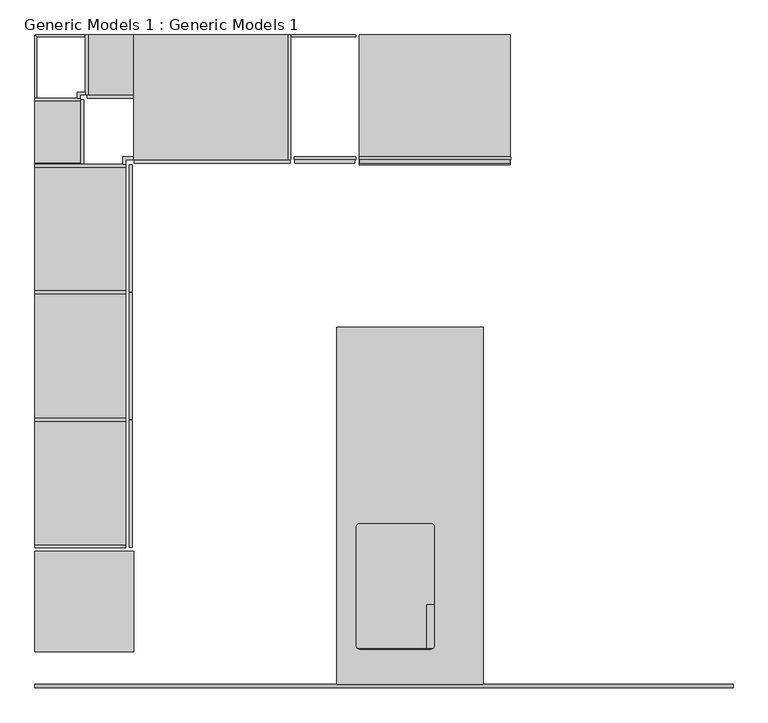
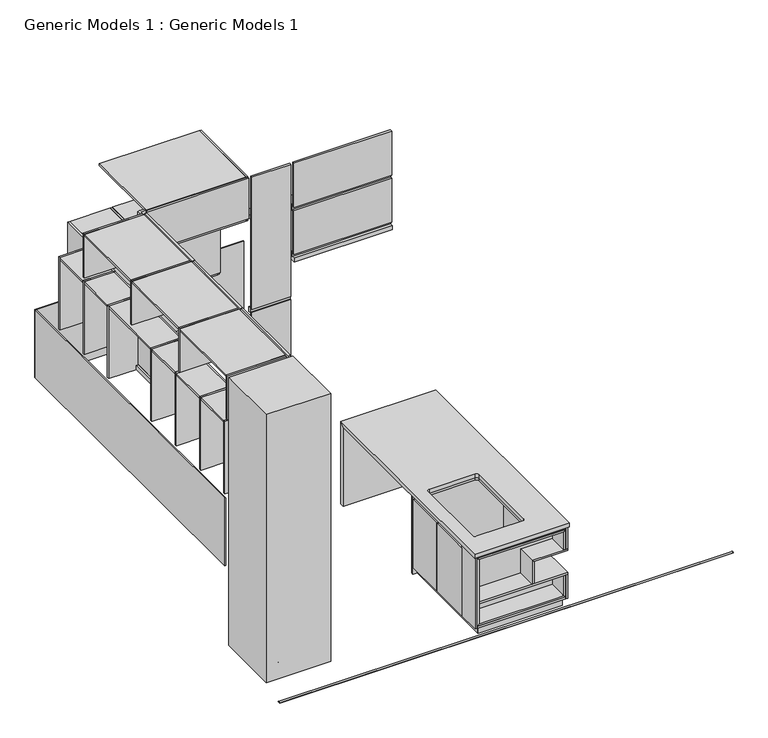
"""IFC4 building model written with IfcOpenShell, lengths in millimetres: proxy geometry, Generic Models 1 : Generic Models 1."""

from ifc_helpers import new_model, si_unit, point, frame, frame_2d, origin, origin_with_axes, place, context, project, spatial, polyline, circle_curve, trimmed, segment, composite_curve, outline, extrude, faceted_brep, source, transform, mapped, element, save
from ifc_brep_helpers import plane_surface, revolved_surface, advanced_brep


def generic_models_1_generic_models_1_b91d2ab0(model_context):
    return source(origin(), model_context, "Body", "SolidModel", [
        extrude(outline(composite_curve([segment(polyline([(2710.1043853, 0.0), (2690.1043853, 0.0), (2690.1043853, 2.5)]), True, "CONTINUOUS"), segment(trimmed(circle_curve(frame_2d((2700.1043853, -0.4166667)), 10.4166667), [point((2690.1043853, 2.5))], [point((2710.1043853, 2.5))], False, "CARTESIAN"), True, "CONTINUOUS"), segment(polyline([(2710.1043853, 2.5), (2710.1043853, 0.0)]), True, "CONTINUOUS")], self_intersect=False)), frame((-6367.2426281, 0.0, 0.0), z_axis=(1.0, 0.0, 0.0), x_axis=(0.0, 1.0, 0.0)), (0.0, 0.0, 1.0), 4300.0),
        extrude(outline(polyline([(-4497.2426281, 3760.1043853), (-3617.2426281, 3760.1043853), (-3617.2426281, 3740.1043853), (-4497.2426281, 3740.1043853), (-4497.2426281, 3760.1043853)])), origin_with_axes(), (0.0, 0.0, 1.0), 790.0),
        extrude(outline(polyline([(-3637.2426281, 2720.1043853), (-4477.2426281, 2720.1043853), (-4477.2426281, 3740.1043853), (-3637.2426281, 3740.1043853), (-3637.2426281, 2720.1043853)])), frame((0.0, 0.0, 70.0), z_axis=(0.0, 0.0, 1.0), x_axis=(1.0, 0.0, 0.0)), (0.0, 0.0, 1.0), 20.0),
        extrude(outline(polyline([(-3637.2426281, 2720.1043853), (-4477.2426281, 2720.1043853), (-4477.2426281, 3740.1043853), (-3637.2426281, 3740.1043853), (-3637.2426281, 2720.1043853)]), holes=[composite_curve([segment(trimmed(circle_curve(frame_2d((-3927.0145714, 3680.1043853)), 20.0), [point((-3907.0145714, 3680.1043853))], [point((-3927.0145714, 3700.1043853))], True, "CARTESIAN"), True, "CONTINUOUS"), segment(polyline([(-3927.0145714, 3700.1043853), (-4367.0145714, 3700.1043853)]), True, "CONTINUOUS"), segment(trimmed(circle_curve(frame_2d((-4367.0145714, 3680.1043853)), 20.0), [point((-4367.0145714, 3700.1043853))], [point((-4387.0145714, 3680.1043853))], True, "CARTESIAN"), True, "CONTINUOUS"), segment(polyline([(-4387.0145714, 3680.1043853), (-4387.0145714, 2948.1079732)]), True, "CONTINUOUS"), segment(trimmed(circle_curve(frame_2d((-4367.0145714, 2948.1079732)), 20.0), [point((-4387.0145714, 2948.1079732))], [point((-4367.0145714, 2928.1079732))], True, "CARTESIAN"), True, "CONTINUOUS"), segment(polyline([(-4367.0145714, 2928.1079732), (-3927.0145714, 2928.1079732)]), True, "CONTINUOUS"), segment(trimmed(circle_curve(frame_2d((-3927.0145714, 2948.1079732)), 20.0), [point((-3927.0145714, 2928.1079732))], [point((-3907.0145714, 2948.1079732))], True, "CARTESIAN"), True, "CONTINUOUS"), segment(polyline([(-3907.0145714, 2948.1079732), (-3907.0145714, 3680.1043853)]), True, "CONTINUOUS")], self_intersect=False)]), frame((0.0, 0.0, 770.0), z_axis=(0.0, 0.0, 1.0), x_axis=(1.0, 0.0, 0.0)), (0.0, 0.0, 1.0), 20.0),
        advanced_brep(
        [(-3637.2426281, 2910.1043853, 568.0), (-3637.2426281, 2910.1043853, 790.0), (-4456.2426281, 2910.1043853, 790.0), (-4456.2426281, 2910.1043853, 70.0), (-3637.2426281, 2910.1043853, 70.0), (-3637.2426281, 2910.1043853, 310.0), (-3955.2426281, 2910.1043853, 310.0), (-3955.2426281, 2910.1043853, 568.0), (-3637.2426281, 2930.1043853, 568.0), (-3955.2426281, 2930.1043853, 568.0), (-3955.2426281, 2930.1043853, 310.0), (-3637.2426281, 2930.1043853, 310.0), (-3637.2426281, 2930.1043853, 70.0), (-4456.2426281, 2930.1043853, 70.0), (-4456.2426281, 2930.1043853, 790.0), (-4375.7249574, 2930.1043853, 790.0), (-4375.7249574, 2930.1043853, 602.0), (-3918.3041854, 2930.1043853, 602.0), (-3918.3041854, 2930.1043853, 790.0), (-3637.2426281, 2930.1043853, 790.0), (-3927.0145714, 2928.1079732, 790.0), (-4367.0145714, 2928.1079732, 790.0), (-4367.0145714, 2928.1079732, 602.0), (-3927.0145714, 2928.1079732, 602.0)],
        [
            (0, 1),
            (1, 2),
            (2, 3),
            (3, 4),
            (4, 5),
            (5, 6),
            (6, 7),
            (7, 0),
            (8, 9),
            (9, 10),
            (10, 11),
            (11, 12),
            (12, 13),
            (13, 14),
            (14, 15),
            (15, 16),
            (16, 17),
            (17, 18),
            (18, 19),
            (19, 8),
            (0, 8),
            (19, 1),
            (18, 20, circle_curve(frame((-3927.0145714, 2948.1079732, 790.0), z_axis=(0.0, 0.0, -1.0), x_axis=(1.0, 0.0, 0.0)), 20.0)),
            (20, 21),
            (21, 15, circle_curve(frame((-4367.0145714, 2948.1079732, 790.0), z_axis=(0.0, 0.0, -1.0), x_axis=(0.0, -1.0, 0.0)), 20.0)),
            (14, 2),
            (13, 3),
            (12, 4),
            (11, 5),
            (10, 6),
            (9, 7),
            (22, 23),
            (23, 17, circle_curve(frame((-3927.0145714, 2948.1079732, 602.0), z_axis=(0.0, 0.0, 1.0), x_axis=(1.0, 0.0, 0.0)), 20.0)),
            (16, 22, circle_curve(frame((-4367.0145714, 2948.1079732, 602.0), z_axis=(0.0, 0.0, 1.0), x_axis=(0.0, -1.0, 0.0)), 20.0)),
            (23, 20),
            (22, 21),
        ],
        [
            plane_surface(frame((-3637.2426281, 2910.1043853, 790.0), z_axis=(0.0, -1.0, 0.0), x_axis=(0.0, 0.0, 1.0))),
            plane_surface(frame((-3637.2426281, 2930.1043853, 790.0), z_axis=(0.0, 1.0, 0.0), x_axis=(0.0, 0.0, -1.0))),
            plane_surface(frame((-3637.2426281, 2910.1043853, 568.0), z_axis=(1.0, 0.0, 0.0), x_axis=(0.0, 1.0, 0.0))),
            plane_surface(frame((-3637.2426281, 2910.1043853, 790.0), z_axis=(0.0, 0.0, 1.0), x_axis=(0.0, 1.0, 0.0))),
            plane_surface(frame((-4456.2426281, 2910.1043853, 790.0), z_axis=(-1.0, 0.0, 0.0), x_axis=(0.0, 1.0, 0.0))),
            plane_surface(frame((-4456.2426281, 2910.1043853, 70.0), z_axis=(0.0, 0.0, -1.0), x_axis=(0.0, 1.0, 0.0))),
            plane_surface(frame((-3637.2426281, 2910.1043853, 70.0), z_axis=(1.0, 0.0, 0.0), x_axis=(0.0, 1.0, 0.0))),
            plane_surface(frame((-3637.2426281, 2910.1043853, 310.0), z_axis=(0.0, 0.0, 1.0), x_axis=(0.0, 1.0, 0.0))),
            plane_surface(frame((-3955.2426281, 2910.1043853, 310.0), z_axis=(1.0, 0.0, 0.0), x_axis=(0.0, 1.0, 0.0))),
            plane_surface(frame((-3955.2426281, 2910.1043853, 568.0), z_axis=(0.0, 0.0, -1.0), x_axis=(0.0, 1.0, 0.0))),
            plane_surface(frame((-3927.0145714, 3700.1043853, 602.0), z_axis=(0.0, 0.0, 1.0), x_axis=(1.0, 0.0, 0.0))),
            revolved_surface(polyline([(-3907.0145714, 2948.1079732, 602.0), (-3907.0145714, 2948.1079732, 790.0)]), (-3927.0145714, 2948.1079732, 942.6604582), (0.0, 0.0, -1.0)),
            plane_surface(frame((-3927.0145714, 2928.1079732, 602.0), z_axis=(0.0, 1.0, 0.0), x_axis=(0.0, 0.0, 1.0))),
            revolved_surface(polyline([(-4367.0145714, 2928.1079732, 602.0), (-4367.0145714, 2928.1079732, 790.0)]), (-4367.0145714, 2948.1079732, 942.6604582), (0.0, 0.0, -1.0)),
        ],
        [
            (0, [[1, 2, 3, 4, 5, 6, 7, 8]]),
            (1, [[9, 10, 11, 12, 13, 14, 15, 16, 17, 18, 19, 20]]),
            (2, [[-1, 21, -20, 22]]),
            (3, [[-2, -22, -19, 23, 24, 25, -15, 26]]),
            (4, [[-3, -26, -14, 27]]),
            (5, [[-4, -27, -13, 28]]),
            (6, [[-5, -28, -12, 29]]),
            (7, [[-6, -29, -11, 30]]),
            (8, [[-7, -30, -10, 31]]),
            (9, [[-8, -31, -9, -21]]),
            (10, [[32, 33, -17, 34]]),
            (11, [[-33, 35, -23, -18]]),
            (12, [[-32, 36, -24, -35]]),
            (13, [[-34, -16, -25, -36]]),
        ],
    ),
        extrude(outline(polyline([(-4457.2426281, 3740.1043853), (-4457.2426281, 2935.1043853), (-4477.2426281, 2935.1043853), (-4477.2426281, 3740.1043853), (-4457.2426281, 3740.1043853)])), frame((0.0, 0.0, 752.0), z_axis=(0.0, 0.0, 1.0), x_axis=(1.0, 0.0, 0.0)), (0.0, 0.0, 1.0), 18.0),
        extrude(outline(polyline([(-4497.2426281, 2940.1043853), (-4497.2426281, 3342.6043853), (-4477.2426281, 3342.6043853), (-4477.2426281, 2940.1043853), (-4497.2426281, 2940.1043853)])), frame((0.0, 0.0, 70.0), z_axis=(0.0, 0.0, 1.0), x_axis=(1.0, 0.0, 0.0)), (0.0, 0.0, 1.0), 682.0),
        extrude(outline(polyline([(-4497.2426281, 3347.6043853), (-4497.2426281, 3735.1043853), (-4477.2426281, 3735.1043853), (-4477.2426281, 3347.6043853), (-4497.2426281, 3347.6043853)])), frame((0.0, 0.0, 70.0), z_axis=(0.0, 0.0, 1.0), x_axis=(1.0, 0.0, 0.0)), (0.0, 0.0, 1.0), 682.0),
        faceted_brep([(-4476.2426281, 2720.1043853, 90.7071068), (-4458.2426281, 2720.1043853, 108.7071068), (-4458.2426281, 2720.1043853, 751.2928932), (-4476.2426281, 2720.1043853, 769.2928932), (-4476.2426281, 2910.1043853, 90.7071068), (-4476.2426281, 2910.1043853, 769.2928932), (-4458.2426281, 2910.1043853, 751.2928932), (-4458.2426281, 2910.1043853, 108.7071068)], [[[0, 1, 2, 3]], [[4, 5, 6, 7]], [[1, 0, 4, 7]], [[2, 1, 7, 6]], [[3, 2, 6, 5]], [[0, 3, 5, 4]]]),
        faceted_brep([(-3637.9497349, 2720.1043853, 770.0), (-4475.5355214, 2720.1043853, 770.0), (-4457.5355214, 2720.1043853, 752.0), (-3655.9497349, 2720.1043853, 752.0), (-3637.9497349, 2910.1043853, 770.0), (-3655.9497349, 2910.1043853, 752.0), (-4457.5355214, 2910.1043853, 752.0), (-4475.5355214, 2910.1043853, 770.0)], [[[0, 1, 2, 3]], [[4, 5, 6, 7]], [[1, 0, 4, 7]], [[2, 1, 7, 6]], [[3, 2, 6, 5]], [[0, 3, 5, 4]]]),
        faceted_brep([(-3637.9497349, 2720.1043853, 90.0), (-3655.9497349, 2720.1043853, 108.0), (-4457.5355214, 2720.1043853, 108.0), (-4475.5355214, 2720.1043853, 90.0), (-3637.9497349, 2910.1043853, 90.0), (-4475.5355214, 2910.1043853, 90.0), (-4457.5355214, 2910.1043853, 108.0), (-3655.9497349, 2910.1043853, 108.0)], [[[0, 1, 2, 3]], [[4, 5, 6, 7]], [[1, 0, 4, 7]], [[2, 1, 7, 6]], [[3, 2, 6, 5]], [[0, 3, 5, 4]]]),
        faceted_brep([(-3637.2426281, 2720.1043853, 569.0), (-3637.2426281, 2720.1043853, 769.2928932), (-3655.2426281, 2720.1043853, 751.2928932), (-3655.2426281, 2720.1043853, 569.0), (-3637.2426281, 2910.1043853, 569.0), (-3655.2426281, 2910.1043853, 569.0), (-3655.2426281, 2910.1043853, 751.2928932), (-3637.2426281, 2910.1043853, 769.2928932)], [[[0, 1, 2, 3]], [[4, 5, 6, 7]], [[1, 0, 4, 7]], [[2, 1, 7, 6]], [[3, 2, 6, 5]], [[0, 3, 5, 4]]]),
        faceted_brep([(-3655.2426281, 2720.1043853, 309.0), (-3655.2426281, 2720.1043853, 108.7071068), (-3637.2426281, 2720.1043853, 90.7071068), (-3637.2426281, 2720.1043853, 309.0), (-3655.2426281, 2910.1043853, 309.0), (-3637.2426281, 2910.1043853, 309.0), (-3637.2426281, 2910.1043853, 90.7071068), (-3655.2426281, 2910.1043853, 108.7071068)], [[[0, 1, 2, 3]], [[4, 5, 6, 7]], [[1, 0, 4, 7]], [[2, 1, 7, 6]], [[3, 2, 6, 5]], [[0, 3, 5, 4]]]),
        faceted_brep([(-3617.2426281, 2720.1043853, 550.0), (-3617.2426281, 2720.1043853, 568.0), (-3954.5355214, 2720.1043853, 568.0), (-3936.5355214, 2720.1043853, 550.0), (-3955.2426281, 2720.1043853, 329.0), (-3937.2426281, 2720.1043853, 329.0), (-3937.2426281, 2720.1043853, 549.2928932), (-3955.2426281, 2720.1043853, 567.2928932), (-3617.2426281, 3181.3972785, 550.0), (-3617.2426281, 3199.3972785, 568.0), (-3617.2426281, 3200.1043853, 310.7071068), (-3617.2426281, 3200.1043853, 567.2928932), (-3617.2426281, 3182.1043853, 549.2928932), (-3617.2426281, 3182.1043853, 328.7071068), (-3955.2426281, 3199.3972785, 568.0), (-3955.2426281, 2910.1043853, 568.0), (-3954.5355214, 2910.1043853, 568.0), (-3936.5355214, 2910.1043853, 550.0), (-3937.2426281, 2910.1043853, 550.0), (-3937.2426281, 3181.3972785, 550.0), (-3937.2426281, 3182.1043853, 329.0), (-3937.2426281, 3182.1043853, 549.2928932), (-3937.2426281, 3182.1043853, 550.0), (-3937.2426281, 2910.1043853, 549.2928932), (-3955.2426281, 2910.1043853, 567.2928932), (-3955.2426281, 3181.3972785, 550.0), (-3955.2426281, 3182.1043853, 550.0), (-3955.2426281, 3182.1043853, 549.2928932), (-3955.2426281, 3200.1043853, 567.2928932), (-3955.2426281, 3200.1043853, 310.7071068), (-3955.2426281, 3182.1043853, 328.7071068), (-3955.2426281, 3182.1043853, 329.0)], [[[0, 1, 2, 3]], [[4, 5, 6, 7]], [[1, 0, 8, 9]], [[10, 11, 12, 13]], [[2, 1, 9, 14, 15, 16]], [[3, 2, 16, 17]], [[8, 0, 3, 17, 18, 19]], [[6, 5, 20, 21, 22, 19, 18, 23]], [[7, 6, 23, 24]], [[4, 7, 24, 15, 14, 25, 26, 27, 28, 29, 30, 31]], [[5, 4, 31, 20]], [[26, 22, 21, 27]], [[22, 26, 25, 19]], [[23, 18, 17, 16, 15, 24]], [[11, 10, 29, 28]], [[12, 11, 28, 27, 21]], [[13, 12, 21, 20, 31, 30]], [[10, 13, 30, 29]], [[9, 8, 19, 25, 14]]]),
        faceted_brep([(-3617.2426281, 2720.1043853, 328.0), (-4457.2426281, 2720.1043853, 328.0), (-4457.2426281, 2720.1043853, 310.0), (-3617.2426281, 2720.1043853, 310.0), (-4457.2426281, 2910.1043853, 310.0), (-4457.2426281, 2910.1043853, 328.0), (-3955.2426281, 2910.1043853, 328.0), (-3955.2426281, 2910.1043853, 310.0), (-3617.2426281, 3199.3972785, 310.0), (-3617.2426281, 3181.3972785, 328.0), (-3955.2426281, 3181.3972785, 328.0), (-3955.2426281, 3199.3972785, 310.0)], [[[0, 1, 2, 3]], [[4, 5, 6, 7]], [[8, 9, 0, 3]], [[1, 0, 9, 10, 6, 5]], [[8, 3, 2, 4, 7, 11]], [[6, 10, 11, 7]], [[2, 1, 5, 4]], [[9, 8, 11, 10]]]),
        advanced_brep(
        [(-5757.2426281, 2911.1043853, 2759.0), (-5757.2426281, 2911.1043853, 70.0), (-5757.2426281, 3529.1043853, 70.0), (-5757.2426281, 3529.1043853, 2759.0), (-5757.2426281, 2920.1043853, 1954.9957582), (-5757.2426281, 3514.1045684, 1954.9957582), (-5757.2426281, 3514.1045684, 1499.9957315), (-5757.2426281, 2920.1043853, 1499.9957315), (-5757.2426281, 2920.1043853, 1251.0), (-5757.2426281, 3520.1043853, 1251.0), (-5757.2426281, 3520.1043853, 233.0), (-5757.2426281, 3515.1043853, 228.0), (-5757.2426281, 2925.1043853, 228.0), (-5757.2426281, 2920.1043853, 233.0), (-6367.2426281, 2911.1043853, 2759.0), (-6367.2426281, 3529.1043853, 2759.0), (-6367.2426281, 3529.1043853, 70.0), (-6367.2426281, 2911.1043853, 70.0), (-6257.2426281, 2920.1043853, 1954.9957582), (-6257.2426281, 2920.1043853, 1499.9957315), (-6257.2426281, 3514.1045684, 1499.9957315), (-6257.2426281, 3514.1045684, 1954.9957582), (-6257.2426281, 2920.1043853, 1251.0), (-6257.2426281, 2920.1043853, 233.0), (-6257.2426281, 2925.1043853, 228.0), (-6257.2426281, 3515.1043853, 228.0), (-6257.2426281, 3520.1043853, 233.0), (-6257.2426281, 3520.1043853, 1251.0)],
        [
            (0, 1),
            (1, 2),
            (2, 3),
            (3, 0),
            (4, 5),
            (5, 6),
            (6, 7),
            (7, 4),
            (8, 9),
            (9, 10),
            (10, 11, circle_curve(frame((-5757.2426281, 3515.1043853, 233.0), z_axis=(-1.0, 0.0, 0.0), x_axis=(0.0, 1.0, 0.0)), 5.0)),
            (11, 12),
            (12, 13, circle_curve(frame((-5757.2426281, 2925.1043853, 233.0), z_axis=(-1.0, 0.0, 0.0), x_axis=(0.0, 1.0, 0.0)), 5.0)),
            (13, 8),
            (14, 15),
            (15, 16),
            (16, 17),
            (17, 14),
            (0, 14),
            (17, 1),
            (16, 2),
            (15, 3),
            (18, 19),
            (19, 20),
            (20, 21),
            (21, 18),
            (22, 23),
            (23, 24, circle_curve(frame((-6257.2426281, 2925.1043853, 233.0), z_axis=(1.0, 0.0, 0.0), x_axis=(0.0, 1.0, 0.0)), 5.0)),
            (24, 25),
            (25, 26, circle_curve(frame((-6257.2426281, 3515.1043853, 233.0), z_axis=(1.0, 0.0, 0.0), x_axis=(0.0, 1.0, 0.0)), 5.0)),
            (26, 27),
            (27, 22),
            (21, 5),
            (4, 18),
            (20, 6),
            (19, 7),
            (27, 9),
            (8, 22),
            (26, 10),
            (25, 11),
            (24, 12),
            (23, 13),
        ],
        [
            plane_surface(frame((-5757.2426281, 2911.1043853, 2760.0), z_axis=(1.0, 0.0, 0.0), x_axis=(0.0, 0.0, -1.0))),
            plane_surface(frame((-6367.2426281, 2911.1043853, 2760.0), z_axis=(-1.0, 0.0, 0.0), x_axis=(0.0, 0.0, 1.0))),
            plane_surface(frame((-5757.2426281, 2911.1043853, 2759.0), z_axis=(0.0, -1.0, 0.0), x_axis=(-1.0, 0.0, 0.0))),
            plane_surface(frame((-5757.2426281, 2911.1043853, 70.0), z_axis=(0.0, 0.0, -1.0), x_axis=(-1.0, 0.0, 0.0))),
            plane_surface(frame((-5757.2426281, 3529.1043853, 70.0), z_axis=(0.0, 1.0, 0.0), x_axis=(-1.0, 0.0, 0.0))),
            plane_surface(frame((-5757.2426281, 3529.1043853, 2759.0), z_axis=(0.0, 0.0, 1.0), x_axis=(-1.0, 0.0, 0.0))),
            plane_surface(frame((-6257.2426281, 3514.1045684, 1954.9957582), z_axis=(1.0, 0.0, 0.0), x_axis=(0.0, 1.0, 0.0))),
            plane_surface(frame((-6257.2426281, 2920.1043853, 1954.9957582), z_axis=(0.0, 0.0, -1.0), x_axis=(1.0, 0.0, 0.0))),
            plane_surface(frame((-6257.2426281, 3514.1045684, 1954.9957582), z_axis=(0.0, -1.0, 0.0), x_axis=(1.0, 0.0, 0.0))),
            plane_surface(frame((-6257.2426281, 3514.1045684, 1499.9957315), z_axis=(0.0, 0.0, 1.0), x_axis=(1.0, 0.0, 0.0))),
            plane_surface(frame((-6257.2426281, 2920.1043853, 1499.9957315), z_axis=(0.0, 1.0, 0.0), x_axis=(1.0, 0.0, 0.0))),
            plane_surface(frame((-6257.2426281, 2920.1043853, 1251.0), z_axis=(0.0, 0.0, -1.0), x_axis=(1.0, 0.0, 0.0))),
            plane_surface(frame((-6257.2426281, 3520.1043853, 1251.0), z_axis=(0.0, -1.0, 0.0), x_axis=(1.0, 0.0, 0.0))),
            revolved_surface(polyline([(-6257.2426281, 3520.1043853, 233.0), (-5757.2426281, 3520.1043853, 233.0)]), (-5757.2426281, 3515.1043853, 233.0), (-1.0, 0.0, 0.0)),
            plane_surface(frame((-6257.2426281, 3515.1043853, 228.0), z_axis=(0.0, 0.0, 1.0), x_axis=(1.0, 0.0, 0.0))),
            revolved_surface(polyline([(-6257.2426281, 2930.1043853, 233.0), (-5757.2426281, 2930.1043853, 233.0)]), (-5757.2426281, 2925.1043853, 233.0), (-1.0, 0.0, 0.0)),
            plane_surface(frame((-6257.2426281, 2920.1043853, 233.0), z_axis=(0.0, 1.0, 0.0), x_axis=(1.0, 0.0, 0.0))),
        ],
        [
            (0, [[1, 2, 3, 4], [5, 6, 7, 8], [9, 10, 11, 12, 13, 14]]),
            (1, [[15, 16, 17, 18]]),
            (2, [[-1, 19, -18, 20]]),
            (3, [[-2, -20, -17, 21]]),
            (4, [[-3, -21, -16, 22]]),
            (5, [[-4, -22, -15, -19]]),
            (6, [[23, 24, 25, 26]]),
            (6, [[27, 28, 29, 30, 31, 32]]),
            (7, [[-26, 33, -5, 34]]),
            (8, [[-25, 35, -6, -33]]),
            (9, [[-24, 36, -7, -35]]),
            (10, [[-23, -34, -8, -36]]),
            (11, [[-32, 37, -9, 38]]),
            (12, [[-31, 39, -10, -37]]),
            (13, [[-30, 40, -11, -39]]),
            (14, [[-29, 41, -12, -40]]),
            (15, [[-28, 42, -13, -41]]),
            (16, [[-27, -38, -14, -42]]),
        ],
    ),
        extrude(outline(polyline([(2720.1043853, 790.0), (3740.1043853, 790.0), (3740.1043853, 70.0), (2720.1043853, 70.0), (2720.1043853, 310.0), (3200.1043853, 310.0), (3200.1043853, 568.0), (2720.1043853, 568.0), (2720.1043853, 790.0)])), frame((-3637.2426281, 0.0, 0.0), z_axis=(1.0, 0.0, 0.0), x_axis=(0.0, 1.0, 0.0)), (0.0, 0.0, 1.0), 20.0),
        advanced_brep(
        [(-3607.2426281, 2710.1043853, 830.0), (-3607.2426281, 2710.1043853, 790.0), (-3607.2426281, 4869.3972785, 790.0), (-3607.2426281, 4909.3972785, 830.0), (-4507.2426281, 2710.1043853, 830.0), (-4507.2426281, 4909.3972785, 830.0), (-4507.2426281, 4869.3972785, 790.0), (-4507.2426281, 2710.1043853, 790.0), (-3907.0145714, 3680.1043853, 790.0), (-3927.0145714, 3700.1043853, 790.0), (-4367.0145714, 3700.1043853, 790.0), (-4387.0145714, 3680.1043853, 790.0), (-4387.0145714, 2948.1079732, 790.0), (-4367.0145714, 2928.1079732, 790.0), (-3927.0145714, 2928.1079732, 790.0), (-3907.0145714, 2948.1079732, 790.0), (-3927.0145714, 3700.1043853, 830.0), (-3907.0145714, 3680.1043853, 830.0), (-3907.0145714, 2948.1079732, 830.0), (-3927.0145714, 2928.1079732, 830.0), (-4367.0145714, 2928.1079732, 830.0), (-4387.0145714, 2948.1079732, 830.0), (-4387.0145714, 3680.1043853, 830.0), (-4367.0145714, 3700.1043853, 830.0)],
        [
            (0, 1),
            (1, 2),
            (2, 3),
            (3, 0),
            (4, 5),
            (5, 6),
            (6, 7),
            (7, 4),
            (0, 4),
            (7, 1),
            (6, 2),
            (8, 9, circle_curve(frame((-3927.0145714, 3680.1043853, 790.0), z_axis=(0.0, 0.0, 1.0), x_axis=(0.0, 1.0, 0.0)), 20.0)),
            (9, 10),
            (10, 11, circle_curve(frame((-4367.0145714, 3680.1043853, 790.0), z_axis=(0.0, 0.0, 1.0), x_axis=(-1.0, 0.0, 0.0)), 20.0)),
            (11, 12),
            (12, 13, circle_curve(frame((-4367.0145714, 2948.1079732, 790.0), z_axis=(0.0, 0.0, 1.0), x_axis=(0.0, -1.0, 0.0)), 20.0)),
            (13, 14),
            (14, 15, circle_curve(frame((-3927.0145714, 2948.1079732, 790.0), z_axis=(0.0, 0.0, 1.0), x_axis=(1.0, 0.0, 0.0)), 20.0)),
            (15, 8),
            (5, 3),
            (16, 17, circle_curve(frame((-3927.0145714, 3680.1043853, 830.0), z_axis=(0.0, 0.0, -1.0), x_axis=(0.0, 1.0, 0.0)), 20.0)),
            (17, 18),
            (18, 19, circle_curve(frame((-3927.0145714, 2948.1079732, 830.0), z_axis=(0.0, 0.0, -1.0), x_axis=(1.0, 0.0, 0.0)), 20.0)),
            (19, 20),
            (20, 21, circle_curve(frame((-4367.0145714, 2948.1079732, 830.0), z_axis=(0.0, 0.0, -1.0), x_axis=(0.0, -1.0, 0.0)), 20.0)),
            (21, 22),
            (22, 23, circle_curve(frame((-4367.0145714, 3680.1043853, 830.0), z_axis=(0.0, 0.0, -1.0), x_axis=(-1.0, 0.0, 0.0)), 20.0)),
            (23, 16),
            (16, 9),
            (8, 17),
            (15, 18),
            (14, 19),
            (13, 20),
            (12, 21),
            (11, 22),
            (10, 23),
        ],
        [
            plane_surface(frame((-3607.2426281, 2710.1043853, 830.0), z_axis=(1.0, 0.0, 0.0), x_axis=(0.0, 0.0, -1.0))),
            plane_surface(frame((-4507.2426281, 2710.1043853, 830.0), z_axis=(-1.0, 0.0, 0.0), x_axis=(0.0, 0.0, 1.0))),
            plane_surface(frame((-3607.2426281, 2710.1043853, 830.0), z_axis=(0.0, -1.0, 0.0), x_axis=(-1.0, 0.0, 0.0))),
            plane_surface(frame((-3607.2426281, 2710.1043853, 790.0), z_axis=(0.0, 0.0, -1.0), x_axis=(-1.0, 0.0, 0.0))),
            plane_surface(frame((-3607.2426281, 4869.3972785, 790.0), z_axis=(0.0, 0.7071067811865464, -0.7071067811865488), x_axis=(-1.0, 0.0, 0.0))),
            plane_surface(frame((-3607.2426281, 4909.3972785, 830.0), z_axis=(0.0, 0.0, 1.0), x_axis=(-1.0, 0.0, 0.0))),
            revolved_surface(polyline([(-3927.0145714, 3700.1043853, 790.0), (-3927.0145714, 3700.1043853, 830.0)]), (-3927.0145714, 3680.1043853, 942.6604582), (0.0, 0.0, -1.0)),
            plane_surface(frame((-3907.0145714, 3680.1043853, 602.0), z_axis=(-1.0, 0.0, 0.0), x_axis=(0.0, 0.0, 1.0))),
            revolved_surface(polyline([(-3907.0145714, 2948.1079732, 790.0), (-3907.0145714, 2948.1079732, 830.0)]), (-3927.0145714, 2948.1079732, 942.6604582), (0.0, 0.0, -1.0)),
            plane_surface(frame((-3927.0145714, 2928.1079732, 602.0), z_axis=(0.0, 1.0, 0.0), x_axis=(0.0, 0.0, 1.0))),
            revolved_surface(polyline([(-4367.0145714, 2928.1079732, 790.0), (-4367.0145714, 2928.1079732, 830.0)]), (-4367.0145714, 2948.1079732, 942.6604582), (0.0, 0.0, -1.0)),
            plane_surface(frame((-4387.0145714, 2948.1079732, 602.0), z_axis=(1.0, 0.0, 0.0), x_axis=(0.0, 0.0, 1.0))),
            revolved_surface(polyline([(-4387.0145714, 3680.1043853, 790.0), (-4387.0145714, 3680.1043853, 830.0)]), (-4367.0145714, 3680.1043853, 942.6604582), (0.0, 0.0, -1.0)),
            plane_surface(frame((-4367.0145714, 3700.1043853, 602.0), z_axis=(0.0, -1.0, 0.0), x_axis=(0.0, 0.0, 1.0))),
        ],
        [
            (0, [[1, 2, 3, 4]]),
            (1, [[5, 6, 7, 8]]),
            (2, [[-1, 9, -8, 10]]),
            (3, [[-2, -10, -7, 11], [12, 13, 14, 15, 16, 17, 18, 19]]),
            (4, [[-3, -11, -6, 20]]),
            (5, [[-4, -20, -5, -9], [21, 22, 23, 24, 25, 26, 27, 28]]),
            (6, [[29, -12, 30, -21]]),
            (7, [[-30, -19, 31, -22]]),
            (8, [[-31, -18, 32, -23]]),
            (9, [[-32, -17, 33, -24]]),
            (10, [[-33, -16, 34, -25]]),
            (11, [[-34, -15, 35, -26]]),
            (12, [[-35, -14, 36, -27]]),
            (13, [[-29, -28, -36, -13]]),
        ],
    ),
        faceted_brep([(-3607.2426281, 4870.1043853, 789.2928932), (-3607.2426281, 4870.1043853, 0.0), (-3607.2426281, 4910.1043853, 0.0), (-3607.2426281, 4910.1043853, 829.2928932), (-4507.2426281, 4870.1043853, 789.2928932), (-4507.2426281, 4910.1043853, 829.2928932), (-4507.2426281, 4910.1043853, 0.0), (-4507.2426281, 4870.1043853, 0.0)], [[[0, 1, 2, 3]], [[4, 5, 6, 7]], [[1, 0, 4, 7]], [[2, 1, 7, 6]], [[3, 2, 6, 5]], [[0, 3, 5, 4]]]),
        extrude(outline(polyline([(-4477.2426281, 2935.1043853), (-4477.2426281, 2720.1043853), (-4497.2426281, 2720.1043853), (-4497.2426281, 2935.1043853), (-4477.2426281, 2935.1043853)])), frame((0.0, 0.0, 70.0), z_axis=(0.0, 0.0, 1.0), x_axis=(1.0, 0.0, 0.0)), (0.0, 0.0, 1.0), 720.0),
        extrude(outline(polyline([(-4456.5355214, 2740.1043853), (-4436.5355214, 2760.1043853), (-3677.9497349, 2760.1043853), (-3657.9497349, 2740.1043853), (-4456.5355214, 2740.1043853)])), origin_with_axes(), (0.0, 0.0, 1.0), 70.0),
        extrude(outline(polyline([(-4457.2426281, 3740.1043853), (-4437.2426281, 3740.1043853), (-4437.2426281, 2760.8114921), (-4457.2426281, 2740.8114921), (-4457.2426281, 3740.1043853)])), origin_with_axes(), (0.0, 0.0, 1.0), 70.0),
        extrude(outline(polyline([(-3657.2426281, 3740.1043853), (-3657.2426281, 2740.8114921), (-3677.2426281, 2760.8114921), (-3677.2426281, 3740.1043853), (-3657.2426281, 3740.1043853)])), origin_with_axes(), (0.0, 0.0, 1.0), 70.0),
        extrude(outline(polyline([(-6357.2426281, 3590.1043853), (-6367.2426281, 3590.1043853), (-6367.2426281, 6709.3972785), (-6357.2426281, 6699.3972785), (-6357.2426281, 3590.1043853)])), frame((0.0, 0.0, 830.0), z_axis=(0.0, 0.0, 1.0), x_axis=(1.0, 0.0, 0.0)), (0.0, 0.0, 1.0), 680.0),
        extrude(outline(polyline([(-6366.5355214, 6710.1043853), (-4391.6426281, 6710.1043853), (-4391.6426281, 6700.1043853), (-6356.5355214, 6700.1043853), (-6366.5355214, 6710.1043853)])), frame((0.0, 0.0, 830.0), z_axis=(0.0, 0.0, 1.0), x_axis=(1.0, 0.0, 0.0)), (0.0, 0.0, 1.0), 680.0),
        extrude(outline(polyline([(-4851.6426281, 6340.1043853), (-5233.5092948, 6340.1043853), (-5233.5092948, 6710.1043853), (-4851.6426281, 6710.1043853), (-4851.6426281, 6340.1043853)])), frame((0.0, 0.0, 1550.0), z_axis=(0.0, 0.0, 1.0), x_axis=(1.0, 0.0, 0.0)), (0.0, 0.0, 1.0), 40.0),
        extrude(outline(polyline([(-5253.5092948, 6340.1043853), (-5635.3759615, 6340.1043853), (-5635.3759615, 6710.1043853), (-5253.5092948, 6710.1043853), (-5253.5092948, 6340.1043853)])), frame((0.0, 0.0, 1550.0), z_axis=(0.0, 0.0, 1.0), x_axis=(1.0, 0.0, 0.0)), (0.0, 0.0, 1.0), 40.0),
        extrude(outline(polyline([(-5655.3759615, 6340.1043853), (-6037.2426281, 6340.1043853), (-6037.2426281, 6710.1043853), (-5655.3759615, 6710.1043853), (-5655.3759615, 6340.1043853)])), frame((0.0, 0.0, 1550.0), z_axis=(0.0, 0.0, 1.0), x_axis=(1.0, 0.0, 0.0)), (0.0, 0.0, 1.0), 40.0),
        extrude(outline(polyline([(-4809.6426281, 5940.1043853), (-5756.2426281, 5940.1043853), (-5756.2426281, 5960.1043853), (-4809.6426281, 5960.1043853), (-4809.6426281, 5940.1043853)])), frame((0.0, 0.0, 2320.0), z_axis=(0.0, 0.0, 1.0), x_axis=(1.0, 0.0, 0.0)), (0.0, 0.0, 1.0), 40.0),
        extrude(outline(polyline([(-5807.2426281, 4331.1002235), (-5807.2426281, 3568.1043853), (-5827.2426281, 3568.1043853), (-5827.2426281, 4331.1002235), (-5807.2426281, 4331.1002235)])), frame((0.0, 0.0, 2320.0), z_axis=(0.0, 0.0, 1.0), x_axis=(1.0, 0.0, 0.0)), (0.0, 0.0, 1.0), 40.0),
        extrude(outline(polyline([(-5807.2426281, 5116.1085471), (-5807.2426281, 4349.1002235), (-5827.2426281, 4349.1002235), (-5827.2426281, 5116.1085471), (-5807.2426281, 5116.1085471)])), frame((0.0, 0.0, 2320.0), z_axis=(0.0, 0.0, 1.0), x_axis=(1.0, 0.0, 0.0)), (0.0, 0.0, 1.0), 40.0),
        extrude(outline(polyline([(-5807.2426281, 5896.093891), (-5807.2426281, 5134.1085471), (-5827.2426281, 5134.1085471), (-5827.2426281, 5896.093891), (-5807.2426281, 5896.093891)])), frame((0.0, 0.0, 2320.0), z_axis=(0.0, 0.0, 1.0), x_axis=(1.0, 0.0, 0.0)), (0.0, 0.0, 1.0), 40.0),
        extrude(outline(polyline([(-4810.6426281, 5940.1043853), (-5757.2426281, 5940.1043853), (-5757.2426281, 6710.1043853), (-4810.6426281, 6710.1043853), (-4810.6426281, 5940.1043853)])), frame((0.0, 0.0, 2742.0), z_axis=(0.0, 0.0, 1.0), x_axis=(1.0, 0.0, 0.0)), (0.0, 0.0, 1.0), 18.0),
        extrude(outline(polyline([(-4791.6426281, 5940.1043853), (-4809.6426281, 5940.1043853), (-4809.6426281, 6710.1043853), (-4791.6426281, 6710.1043853), (-4791.6426281, 5940.1043853)])), frame((0.0, 0.0, 2320.0), z_axis=(0.0, 0.0, 1.0), x_axis=(1.0, 0.0, 0.0)), (0.0, 0.0, 1.0), 440.0),
        extrude(outline(polyline([(-5827.2426281, 5914.093891), (-5827.2426281, 5960.1043853), (-5809.1951387, 5960.1043853), (-5757.2426281, 5960.1043853), (-5757.2426281, 5940.1043853), (-5807.2426281, 5940.1043853), (-5807.2426281, 5914.093891), (-5827.2426281, 5914.093891)])), frame((0.0, 0.0, 2320.0), z_axis=(0.0, 0.0, 1.0), x_axis=(1.0, 0.0, 0.0)), (0.0, 0.0, 1.0), 440.0),
        extrude(outline(polyline([(-5807.2426281, 3568.1043853), (-5807.2426281, 3550.1043853), (-6367.2426281, 3550.1043853), (-6367.2426281, 3568.1043853), (-5807.2426281, 3568.1043853)])), frame((0.0, 0.0, 2320.0), z_axis=(0.0, 0.0, 1.0), x_axis=(1.0, 0.0, 0.0)), (0.0, 0.0, 1.0), 440.0),
        extrude(outline(polyline([(-5807.2426281, 4349.1002235), (-5807.2426281, 4331.1002235), (-6367.2426281, 4331.1002235), (-6367.2426281, 4349.1002235), (-5807.2426281, 4349.1002235)])), frame((0.0, 0.0, 2320.0), z_axis=(0.0, 0.0, 1.0), x_axis=(1.0, 0.0, 0.0)), (0.0, 0.0, 1.0), 440.0),
        extrude(outline(polyline([(-5807.2426281, 5134.1085471), (-5807.2426281, 5116.1085471), (-6367.2426281, 5116.1085471), (-6367.2426281, 5134.1085471), (-5807.2426281, 5134.1085471)])), frame((0.0, 0.0, 2320.0), z_axis=(0.0, 0.0, 1.0), x_axis=(1.0, 0.0, 0.0)), (0.0, 0.0, 1.0), 440.0),
        extrude(outline(polyline([(-5807.2426281, 5914.093891), (-5807.2426281, 5896.093891), (-6367.2426281, 5896.093891), (-6367.2426281, 5914.093891), (-5807.2426281, 5914.093891)])), frame((0.0, 0.0, 2320.0), z_axis=(0.0, 0.0, 1.0), x_axis=(1.0, 0.0, 0.0)), (0.0, 0.0, 1.0), 440.0),
        extrude(outline(polyline([(-5807.2426281, 4330.1002235), (-5807.2426281, 3569.1043853), (-6367.2426281, 3569.1043853), (-6367.2426281, 4330.1002235), (-5807.2426281, 4330.1002235)])), frame((0.0, 0.0, 2742.0), z_axis=(0.0, 0.0, 1.0), x_axis=(1.0, 0.0, 0.0)), (0.0, 0.0, 1.0), 18.0),
        extrude(outline(polyline([(-5807.2426281, 5115.1085471), (-5807.2426281, 4350.1002235), (-6367.2426281, 4350.1002235), (-6367.2426281, 5115.1085471), (-5807.2426281, 5115.1085471)])), frame((0.0, 0.0, 2742.0), z_axis=(0.0, 0.0, 1.0), x_axis=(1.0, 0.0, 0.0)), (0.0, 0.0, 1.0), 18.0),
        extrude(outline(polyline([(-5807.2426281, 5892.6022146), (-5807.2426281, 5135.1085471), (-6367.2426281, 5135.1085471), (-6367.2426281, 5892.6022146), (-5807.2426281, 5892.6022146)])), frame((0.0, 0.0, 2742.0), z_axis=(0.0, 0.0, 1.0), x_axis=(1.0, 0.0, 0.0)), (0.0, 0.0, 1.0), 18.0),
        extrude(outline(polyline([(2755.0, -5767.2426281), (2755.0, -5787.2426281), (2365.0559459, -5787.2426281), (2350.0, -5778.5500737), (2350.0, -5767.2426281), (2755.0, -5767.2426281)])), frame((0.0, 4342.6043853, 0.0), z_axis=(0.0, 1.0, 0.0), x_axis=(0.0, 0.0, 1.0)), (0.0, 0.0, 1.0), 780.0),
        extrude(outline(polyline([(2755.0, -5767.2426281), (2755.0, -5787.2426281), (2365.0559459, -5787.2426281), (2350.0, -5778.5500737), (2350.0, -5767.2426281), (2755.0, -5767.2426281)])), frame((0.0, 3555.1043853, 0.0), z_axis=(0.0, 1.0, 0.0), x_axis=(0.0, 0.0, 1.0)), (0.0, 0.0, 1.0), 782.4916764),
        extrude(outline(polyline([(2755.0, -5767.2426281), (2755.0, -5787.2426281), (2365.0559459, -5787.2426281), (2350.0, -5778.5500737), (2350.0, -5767.2426281), (2755.0, -5767.2426281)])), frame((0.0, 5127.7087868, 0.0), z_axis=(0.0, 1.0, 0.0), x_axis=(0.0, 0.0, 1.0)), (0.0, 0.0, 1.0), 782.3955985),
        extrude(outline(polyline([(-6087.2426281, 6340.1043853), (-6087.2426281, 6321.6043853), (-6105.2426281, 6321.6043853), (-6105.2426281, 6358.1043853), (-6056.2426281, 6358.1043853), (-6056.2426281, 6340.1043853), (-6087.2426281, 6340.1043853)])), frame((0.0, 0.0, 1550.0), z_axis=(0.0, 0.0, 1.0), x_axis=(1.0, 0.0, 0.0)), (0.0, 0.0, 1.0), 729.0),
        extrude(outline(polyline([(-6087.2426281, 3984.471052), (-6087.2426281, 3609.1043853), (-6107.2426281, 3609.1043853), (-6107.2426281, 3984.471052), (-6087.2426281, 3984.471052)])), frame((0.0, 0.0, 1550.0), z_axis=(0.0, 0.0, 1.0), x_axis=(1.0, 0.0, 0.0)), (0.0, 0.0, 1.0), 40.0),
        extrude(outline(polyline([(-6087.2426281, 4386.3377186), (-6087.2426281, 4004.471052), (-6107.2426281, 4004.471052), (-6107.2426281, 4386.3377186), (-6087.2426281, 4386.3377186)])), frame((0.0, 0.0, 1550.0), z_axis=(0.0, 0.0, 1.0), x_axis=(1.0, 0.0, 0.0)), (0.0, 0.0, 1.0), 40.0),
        extrude(outline(polyline([(-6087.2426281, 4788.2043853), (-6087.2426281, 4406.3377186), (-6107.2426281, 4406.3377186), (-6107.2426281, 4788.2043853), (-6087.2426281, 4788.2043853)])), frame((0.0, 0.0, 1550.0), z_axis=(0.0, 0.0, 1.0), x_axis=(1.0, 0.0, 0.0)), (0.0, 0.0, 1.0), 40.0),
        extrude(outline(polyline([(-6087.2426281, 5498.871052), (-6087.2426281, 4808.2043853), (-6107.2426281, 4808.2043853), (-6107.2426281, 5498.871052), (-6087.2426281, 5498.871052)])), frame((0.0, 0.0, 1550.0), z_axis=(0.0, 0.0, 1.0), x_axis=(1.0, 0.0, 0.0)), (0.0, 0.0, 1.0), 40.0),
        extrude(outline(polyline([(-6087.2426281, 5900.7377186), (-6087.2426281, 5518.871052), (-6107.2426281, 5518.871052), (-6107.2426281, 5900.7377186), (-6087.2426281, 5900.7377186)])), frame((0.0, 0.0, 1550.0), z_axis=(0.0, 0.0, 1.0), x_axis=(1.0, 0.0, 0.0)), (0.0, 0.0, 1.0), 40.0),
        extrude(outline(polyline([(-6087.2426281, 6302.6043853), (-6087.2426281, 5920.7377186), (-6107.2426281, 5920.7377186), (-6107.2426281, 6302.6043853), (-6087.2426281, 6302.6043853)])), frame((0.0, 0.0, 1550.0), z_axis=(0.0, 0.0, 1.0), x_axis=(1.0, 0.0, 0.0)), (0.0, 0.0, 1.0), 40.0),
        extrude(outline(polyline([(-6087.2426281, 5498.871052), (-6087.2426281, 4808.2043853), (-6107.2426281, 4808.2043853), (-6107.2426281, 5498.871052), (-6087.2426281, 5498.871052)])), frame((0.0, 0.0, 1902.0), z_axis=(0.0, 0.0, 1.0), x_axis=(1.0, 0.0, 0.0)), (0.0, 0.0, 1.0), 50.0),
        extrude(outline(polyline([(-6087.2426281, 3608.1043853), (-6087.2426281, 3590.1043853), (-6367.2426281, 3590.1043853), (-6367.2426281, 3608.1043853), (-6087.2426281, 3608.1043853)])), frame((0.0, 0.0, 1550.0), z_axis=(0.0, 0.0, 1.0), x_axis=(1.0, 0.0, 0.0)), (0.0, 0.0, 1.0), 729.0),
        extrude(outline(polyline([(-6087.2426281, 4003.471052), (-6087.2426281, 3985.471052), (-6367.2426281, 3985.471052), (-6367.2426281, 4003.471052), (-6087.2426281, 4003.471052)])), frame((0.0, 0.0, 1550.0), z_axis=(0.0, 0.0, 1.0), x_axis=(1.0, 0.0, 0.0)), (0.0, 0.0, 1.0), 729.0),
        extrude(outline(polyline([(-6087.2426281, 4405.3377186), (-6087.2426281, 4387.3377186), (-6367.2426281, 4387.3377186), (-6367.2426281, 4405.3377186), (-6087.2426281, 4405.3377186)])), frame((0.0, 0.0, 1550.0), z_axis=(0.0, 0.0, 1.0), x_axis=(1.0, 0.0, 0.0)), (0.0, 0.0, 1.0), 729.0),
        extrude(outline(polyline([(-6087.2426281, 4807.2043853), (-6087.2426281, 4789.2043853), (-6367.2426281, 4789.2043853), (-6367.2426281, 4807.2043853), (-6087.2426281, 4807.2043853)])), frame((0.0, 0.0, 1550.0), z_axis=(0.0, 0.0, 1.0), x_axis=(1.0, 0.0, 0.0)), (0.0, 0.0, 1.0), 729.0),
        extrude(outline(polyline([(-6087.2426281, 5517.871052), (-6087.2426281, 5499.871052), (-6367.2426281, 5499.871052), (-6367.2426281, 5517.871052), (-6087.2426281, 5517.871052)])), frame((0.0, 0.0, 1550.0), z_axis=(0.0, 0.0, 1.0), x_axis=(1.0, 0.0, 0.0)), (0.0, 0.0, 1.0), 729.0),
        extrude(outline(polyline([(-6087.2426281, 5919.7377186), (-6087.2426281, 5901.7377186), (-6367.2426281, 5901.7377186), (-6367.2426281, 5919.7377186), (-6087.2426281, 5919.7377186)])), frame((0.0, 0.0, 1550.0), z_axis=(0.0, 0.0, 1.0), x_axis=(1.0, 0.0, 0.0)), (0.0, 0.0, 1.0), 729.0),
        extrude(outline(polyline([(-6087.2426281, 6321.6043853), (-6087.2426281, 6303.6043853), (-6367.2426281, 6303.6043853), (-6367.2426281, 6321.6043853), (-6087.2426281, 6321.6043853)])), frame((0.0, 0.0, 1550.0), z_axis=(0.0, 0.0, 1.0), x_axis=(1.0, 0.0, 0.0)), (0.0, 0.0, 1.0), 729.0),
        extrude(outline(polyline([(-6087.2426281, 3984.471052), (-6087.2426281, 3609.1043853), (-6367.2426281, 3609.1043853), (-6367.2426281, 3984.471052), (-6087.2426281, 3984.471052)])), frame((0.0, 0.0, 2260.0), z_axis=(0.0, 0.0, 1.0), x_axis=(1.0, 0.0, 0.0)), (0.0, 0.0, 1.0), 19.0),
        extrude(outline(polyline([(-6087.2426281, 4386.3377186), (-6087.2426281, 4004.471052), (-6367.2426281, 4004.471052), (-6367.2426281, 4386.3377186), (-6087.2426281, 4386.3377186)])), frame((0.0, 0.0, 2260.0), z_axis=(0.0, 0.0, 1.0), x_axis=(1.0, 0.0, 0.0)), (0.0, 0.0, 1.0), 19.0),
        extrude(outline(polyline([(-6087.2426281, 4788.2043853), (-6087.2426281, 4406.3377186), (-6367.2426281, 4406.3377186), (-6367.2426281, 4788.2043853), (-6087.2426281, 4788.2043853)])), frame((0.0, 0.0, 2260.0), z_axis=(0.0, 0.0, 1.0), x_axis=(1.0, 0.0, 0.0)), (0.0, 0.0, 1.0), 19.0),
        extrude(outline(polyline([(-6087.2426281, 5498.871052), (-6087.2426281, 4808.2043853), (-6367.2426281, 4808.2043853), (-6367.2426281, 5498.871052), (-6087.2426281, 5498.871052)])), frame((0.0, 0.0, 2260.0), z_axis=(0.0, 0.0, 1.0), x_axis=(1.0, 0.0, 0.0)), (0.0, 0.0, 1.0), 19.0),
        extrude(outline(polyline([(-6087.2426281, 5900.7377186), (-6087.2426281, 5518.871052), (-6367.2426281, 5518.871052), (-6367.2426281, 5900.7377186), (-6087.2426281, 5900.7377186)])), frame((0.0, 0.0, 2260.0), z_axis=(0.0, 0.0, 1.0), x_axis=(1.0, 0.0, 0.0)), (0.0, 0.0, 1.0), 19.0),
        extrude(outline(polyline([(-6087.2426281, 6302.6043853), (-6087.2426281, 5920.7377186), (-6367.2426281, 5920.7377186), (-6367.2426281, 6302.6043853), (-6087.2426281, 6302.6043853)])), frame((0.0, 0.0, 2260.0), z_axis=(0.0, 0.0, 1.0), x_axis=(1.0, 0.0, 0.0)), (0.0, 0.0, 1.0), 19.0),
        extrude(outline(polyline([(2274.0, -6067.2426281), (2274.0, -6087.2426281), (1595.0559459, -6087.2426281), (1580.0, -6078.5500737), (1580.0, -6067.2426281), (2274.0, -6067.2426281)])), frame((0.0, 5511.371052, 0.0), z_axis=(0.0, 1.0, 0.0), x_axis=(0.0, 0.0, 1.0)), (0.0, 0.0, 1.0), 396.8666667),
        extrude(outline(polyline([(2274.0, -6067.2426281), (2274.0, -6087.2426281), (1595.0559459, -6087.2426281), (1580.0, -6078.5500737), (1580.0, -6067.2426281), (2274.0, -6067.2426281)])), frame((0.0, 5913.2377186, 0.0), z_axis=(0.0, 1.0, 0.0), x_axis=(0.0, 0.0, 1.0)), (0.0, 0.0, 1.0), 396.8666667),
        extrude(outline(polyline([(2274.0, -6067.2426281), (2274.0, -6087.2426281), (1957.0559459, -6087.2426281), (1942.0, -6078.5500737), (1942.0, -6067.2426281), (2274.0, -6067.2426281)])), frame((0.0, 4800.7043853, 0.0), z_axis=(0.0, 1.0, 0.0), x_axis=(0.0, 0.0, 1.0)), (0.0, 0.0, 1.0), 705.6666667),
        extrude(outline(polyline([(1912.0, -6067.2426281), (1912.0, -6087.2426281), (1595.0559459, -6087.2426281), (1580.0, -6078.5500737), (1580.0, -6067.2426281), (1912.0, -6067.2426281)])), frame((0.0, 4800.7043853, 0.0), z_axis=(0.0, 1.0, 0.0), x_axis=(0.0, 0.0, 1.0)), (0.0, 0.0, 1.0), 705.6666667),
        extrude(outline(polyline([(2274.0, -6067.2426281), (2274.0, -6087.2426281), (1595.0559459, -6087.2426281), (1580.0, -6078.5500737), (1580.0, -6067.2426281), (2274.0, -6067.2426281)])), frame((0.0, 4398.8377186, 0.0), z_axis=(0.0, 1.0, 0.0), x_axis=(0.0, 0.0, 1.0)), (0.0, 0.0, 1.0), 396.8666667),
        extrude(outline(polyline([(2274.0, -6067.2426281), (2274.0, -6087.2426281), (1595.0559459, -6087.2426281), (1580.0, -6078.5500737), (1580.0, -6067.2426281), (2274.0, -6067.2426281)])), frame((0.0, 3996.971052, 0.0), z_axis=(0.0, 1.0, 0.0), x_axis=(0.0, 0.0, 1.0)), (0.0, 0.0, 1.0), 396.8666667),
        extrude(outline(polyline([(2274.0, -6067.2426281), (2274.0, -6087.2426281), (1595.0559459, -6087.2426281), (1580.0, -6078.5500737), (1580.0, -6067.2426281), (2274.0, -6067.2426281)])), frame((0.0, 3595.1043853, 0.0), z_axis=(0.0, 1.0, 0.0), x_axis=(0.0, 0.0, 1.0)), (0.0, 0.0, 1.0), 396.8666667),
        extrude(outline(polyline([(6320.1043853, 2274.0), (6340.1043853, 2274.0), (6340.1043853, 1595.0559459), (6331.4118309, 1580.0), (6320.1043853, 1580.0), (6320.1043853, 2274.0)])), frame((-6044.7426281, 0.0, 0.0), z_axis=(1.0, 0.0, 0.0), x_axis=(0.0, 1.0, 0.0)), (0.0, 0.0, 1.0), 396.8666667),
        extrude(outline(polyline([(6320.1043853, 2274.0), (6340.1043853, 2274.0), (6340.1043853, 1595.0559459), (6331.4118309, 1580.0), (6320.1043853, 1580.0), (6320.1043853, 2274.0)])), frame((-5642.8759615, 0.0, 0.0), z_axis=(1.0, 0.0, 0.0), x_axis=(0.0, 1.0, 0.0)), (0.0, 0.0, 1.0), 396.8666667),
        extrude(outline(polyline([(6320.1043853, 2274.0), (6340.1043853, 2274.0), (6340.1043853, 1595.0559459), (6331.4118309, 1580.0), (6320.1043853, 1580.0), (6320.1043853, 2274.0)])), frame((-5241.0092948, 0.0, 0.0), z_axis=(1.0, 0.0, 0.0), x_axis=(0.0, 1.0, 0.0)), (0.0, 0.0, 1.0), 404.9666667),
        extrude(outline(polyline([(-4832.6426281, 6340.1043853), (-4850.6426281, 6340.1043853), (-4850.6426281, 6710.1043853), (-4832.6426281, 6710.1043853), (-4832.6426281, 6340.1043853)])), frame((0.0, 0.0, 1551.0), z_axis=(0.0, 0.0, 1.0), x_axis=(1.0, 0.0, 0.0)), (0.0, 0.0, 1.0), 728.0),
        extrude(outline(polyline([(-6038.2426281, 6340.1043853), (-6056.2426281, 6340.1043853), (-6056.2426281, 6710.1043853), (-6038.2426281, 6710.1043853), (-6038.2426281, 6340.1043853)])), frame((0.0, 0.0, 1551.0), z_axis=(0.0, 0.0, 1.0), x_axis=(1.0, 0.0, 0.0)), (0.0, 0.0, 1.0), 728.0),
        extrude(outline(polyline([(-5636.3759615, 6340.1043853), (-5654.3759615, 6340.1043853), (-5654.3759615, 6710.1043853), (-5636.3759615, 6710.1043853), (-5636.3759615, 6340.1043853)])), frame((0.0, 0.0, 1551.0), z_axis=(0.0, 0.0, 1.0), x_axis=(1.0, 0.0, 0.0)), (0.0, 0.0, 1.0), 728.0),
        extrude(outline(polyline([(-5234.5092948, 6340.1043853), (-5252.5092948, 6340.1043853), (-5252.5092948, 6710.1043853), (-5234.5092948, 6710.1043853), (-5234.5092948, 6340.1043853)])), frame((0.0, 0.0, 1551.0), z_axis=(0.0, 0.0, 1.0), x_axis=(1.0, 0.0, 0.0)), (0.0, 0.0, 1.0), 728.0),
        extrude(outline(polyline([(-4851.6426281, 6340.1043853), (-5233.5092948, 6340.1043853), (-5233.5092948, 6710.1043853), (-4851.6426281, 6710.1043853), (-4851.6426281, 6340.1043853)])), frame((0.0, 0.0, 2261.0), z_axis=(0.0, 0.0, 1.0), x_axis=(1.0, 0.0, 0.0)), (0.0, 0.0, 1.0), 18.0),
        extrude(outline(polyline([(-5253.5092948, 6340.1043853), (-5635.3759615, 6340.1043853), (-5635.3759615, 6710.1043853), (-5253.5092948, 6710.1043853), (-5253.5092948, 6340.1043853)])), frame((0.0, 0.0, 2261.0), z_axis=(0.0, 0.0, 1.0), x_axis=(1.0, 0.0, 0.0)), (0.0, 0.0, 1.0), 18.0),
        extrude(outline(polyline([(-5655.3759615, 6340.1043853), (-6037.2426281, 6340.1043853), (-6037.2426281, 6710.1043853), (-5655.3759615, 6710.1043853), (-5655.3759615, 6340.1043853)])), frame((0.0, 0.0, 2261.0), z_axis=(0.0, 0.0, 1.0), x_axis=(1.0, 0.0, 0.0)), (0.0, 0.0, 1.0), 18.0),
        extrude(outline(polyline([(-3437.6426281, 5940.1043853), (-4370.6426281, 5940.1043853), (-4370.6426281, 5960.1043853), (-3437.6426281, 5960.1043853), (-3437.6426281, 5940.1043853)])), frame((0.0, 0.0, 1811.0), z_axis=(0.0, 0.0, 1.0), x_axis=(1.0, 0.0, 0.0)), (0.0, 0.0, 1.0), 39.0),
        extrude(outline(polyline([(-3437.6426281, 5940.1043853), (-4370.6426281, 5940.1043853), (-4370.6426281, 5960.1043853), (-3437.6426281, 5960.1043853), (-3437.6426281, 5940.1043853)])), frame((0.0, 0.0, 2272.5), z_axis=(0.0, 0.0, 1.0), x_axis=(1.0, 0.0, 0.0)), (0.0, 0.0, 1.0), 50.0),
        extrude(outline(polyline([(5920.1043853, 2755.0), (5940.1043853, 2755.0), (5940.1043853, 2365.0559459), (5931.4118309, 2350.0), (5920.1043853, 2350.0), (5920.1043853, 2755.0)])), frame((-5756.2426281, 0.0, 0.0), z_axis=(1.0, 0.0, 0.0), x_axis=(0.0, 1.0, 0.0)), (0.0, 0.0, 1.0), 960.2),
        extrude(outline(polyline([(5920.1043853, 2755.0), (5940.1043853, 2755.0), (5940.1043853, 2327.5559459), (5931.4118309, 2312.5), (5920.1043853, 2312.5), (5920.1043853, 2755.0)])), frame((-4366.6426281, 0.0, 0.0), z_axis=(1.0, 0.0, 0.0), x_axis=(0.0, 1.0, 0.0)), (0.0, 0.0, 1.0), 925.0),
        extrude(outline(polyline([(5920.1043853, 2282.5), (5940.1043853, 2282.5), (5940.1043853, 1855.0559459), (5931.4118309, 1840.0), (5920.1043853, 1840.0), (5920.1043853, 2282.5)])), frame((-4366.6426281, 0.0, 0.0), z_axis=(1.0, 0.0, 0.0), x_axis=(0.0, 1.0, 0.0)), (0.0, 0.0, 1.0), 925.0),
        extrude(outline(polyline([(-3438.2426281, 5910.1043853), (-4370.6426281, 5910.1043853), (-4370.6426281, 6710.1043853), (-3438.2426281, 6710.1043853), (-3438.2426281, 5910.1043853)])), frame((0.0, 0.0, 1770.0), z_axis=(0.0, 0.0, 1.0), x_axis=(1.0, 0.0, 0.0)), (0.0, 0.0, 1.0), 40.0),
        extrude(outline(polyline([(-4392.6426281, 5940.1043853), (-4770.6426281, 5940.1043853), (-4770.6426281, 5960.1043853), (-4392.6426281, 5960.1043853), (-4392.6426281, 5940.1043853)])), frame((0.0, 0.0, 1387.5), z_axis=(0.0, 0.0, 1.0), x_axis=(1.0, 0.0, 0.0)), (0.0, 0.0, 1.0), 50.0),
        extrude(outline(polyline([(5920.1043853, 2755.0), (5940.1043853, 2755.0), (5940.1043853, 1442.5559459), (5931.4118309, 1427.5), (5920.1043853, 1427.5), (5920.1043853, 2755.0)])), frame((-4766.6426281, 0.0, 0.0), z_axis=(1.0, 0.0, 0.0), x_axis=(0.0, 1.0, 0.0)), (0.0, 0.0, 1.0), 370.0),
        extrude(outline(polyline([(5920.1043853, 70.0), (5920.1043853, 1397.5), (5931.4118309, 1397.5), (5940.1043853, 1382.4440541), (5940.1043853, 70.0), (5920.1043853, 70.0)])), frame((-4766.6426281, 0.0, 0.0), z_axis=(1.0, 0.0, 0.0), x_axis=(0.0, 1.0, 0.0)), (0.0, 0.0, 1.0), 370.0),
    ])


if __name__ == "__main__":
    model = new_model("IFC4")
    model_context = context("Model", 3, world=origin())
    ifc_project = project(units=[si_unit("LENGTHUNIT", "METRE", prefix="MILLI")], contexts=[model_context])
    site = spatial("IfcSite", under=ifc_project)
    building = spatial("IfcBuilding", under=site)
    placement = place(None, origin())
    generic_models_1_generic_models_1_shape = generic_models_1_generic_models_1_b91d2ab0(model_context)
    element("IfcBuildingElementProxy", 1, Name="Generic Models 1 : Generic Models 1", ObjectType="Generic Models 1 : Generic Models 1", at=placement, inside=building, context=model_context, shape_type="MappedRepresentation", body=[
        mapped(generic_models_1_generic_models_1_shape, transform((0.0, 0.0, 0.0), x_axis=(1.0, 0.0, 0.0), y_axis=(0.0, 1.0, 0.0), z_axis=(0.0, 0.0, 1.0))),
    ])
    save(model, "model.ifc")
